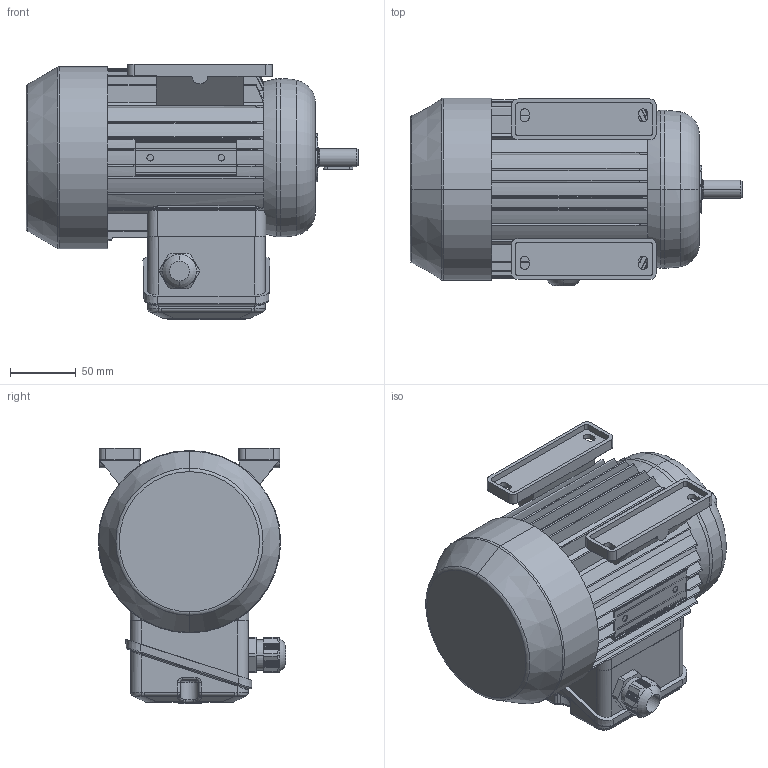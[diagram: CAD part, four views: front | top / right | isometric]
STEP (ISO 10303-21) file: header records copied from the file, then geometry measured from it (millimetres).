
FILE_DESCRIPTION (( 'STEP AP214' ), '1' );
FILE_NAME ('MAH71M4B IM1081.STEP', '2022-02-21T10:35:17', ( '' ), ( '' ), 'SwSTEP 2.0', 'SolidWorks 2021', '' );
FILE_SCHEMA (( 'AUTOMOTIVE_DESIGN' ));
Length unit declared in the file: millimetre
Products named in the file (1): MAH71M4B IM1081
Bounding box: 252 x 142.39 x 194 mm (x, y, z)
Volume: 3217311.4 mm3; surface area: 236847.3 mm2
Topology: 3 solids, 8 shells, 1073 faces, 2809 edges, 1783 vertices
Faces by surface type: plane 551, cylinder 275, bspline 136, torus 83, cone 24, sphere 4
Entity records: 42631 total; most frequent: CARTESIAN_POINT 17318, ORIENTED_EDGE 5614, DIRECTION 4826, EDGE_CURVE 2807, VERTEX_POINT 1783, AXIS2_PLACEMENT_3D 1617, LINE 1592, VECTOR 1592
